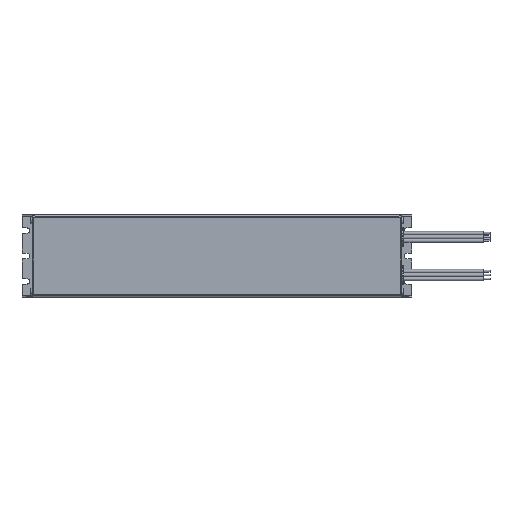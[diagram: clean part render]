
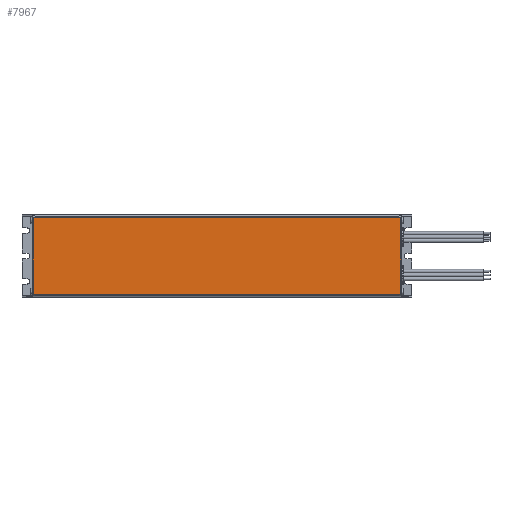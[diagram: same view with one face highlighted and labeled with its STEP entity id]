
A CAD part, top view. The second image highlights one B-rep face of the part: STEP entity #7967.
In plain terms, the highlighted planar face has unit normal (0, 0, 1).
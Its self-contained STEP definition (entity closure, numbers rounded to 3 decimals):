
#931=DIRECTION('',(1.,0.,0.));
#932=VECTOR('',#931,289.6);
#933=CARTESIAN_POINT('',(4.7,-30.2,21.));
#934=LINE('',#933,#932);
#951=DIRECTION('',(0.,-1.,0.));
#952=VECTOR('',#951,60.4);
#953=CARTESIAN_POINT('',(4.7,30.2,21.));
#954=LINE('',#953,#952);
#982=DIRECTION('',(-1.,0.,0.));
#983=VECTOR('',#982,289.6);
#984=CARTESIAN_POINT('',(294.3,30.2,21.));
#985=LINE('',#984,#983);
#2053=DIRECTION('',(0.,1.,0.));
#2054=VECTOR('',#2053,60.4);
#2055=CARTESIAN_POINT('',(294.3,-30.2,21.));
#2056=LINE('',#2055,#2054);
#5944=CARTESIAN_POINT('',(294.3,30.2,21.));
#5945=VERTEX_POINT('',#5944);
#5947=CARTESIAN_POINT('',(4.7,30.2,21.));
#5949=VERTEX_POINT('',#5947);
#5950=CARTESIAN_POINT('',(4.7,-30.2,21.));
#5951=VERTEX_POINT('',#5950);
#5952=CARTESIAN_POINT('',(294.3,-30.2,21.));
#5953=VERTEX_POINT('',#5952);
#7953=CARTESIAN_POINT('',(6.,30.2,21.));
#7954=DIRECTION('',(0.,0.,1.));
#7955=DIRECTION('',(0.,-1.,0.));
#7956=AXIS2_PLACEMENT_3D('',#7953,#7954,#7955);
#7957=PLANE('',#7956);
#7959=ORIENTED_EDGE('',*,*,#7958,.F.);
#7961=ORIENTED_EDGE('',*,*,#7960,.F.);
#7963=ORIENTED_EDGE('',*,*,#7962,.F.);
#7964=ORIENTED_EDGE('',*,*,#7936,.F.);
#7965=EDGE_LOOP('',(#7959,#7961,#7963,#7964));
#7966=FACE_OUTER_BOUND('',#7965,.F.);
#7967=ADVANCED_FACE('',(#7966),#7957,.T.);
#7936=EDGE_CURVE('',#5951,#5953,#934,.T.);
#7958=EDGE_CURVE('',#5949,#5951,#954,.T.);
#7960=EDGE_CURVE('',#5945,#5949,#985,.T.);
#7962=EDGE_CURVE('',#5953,#5945,#2056,.T.);
